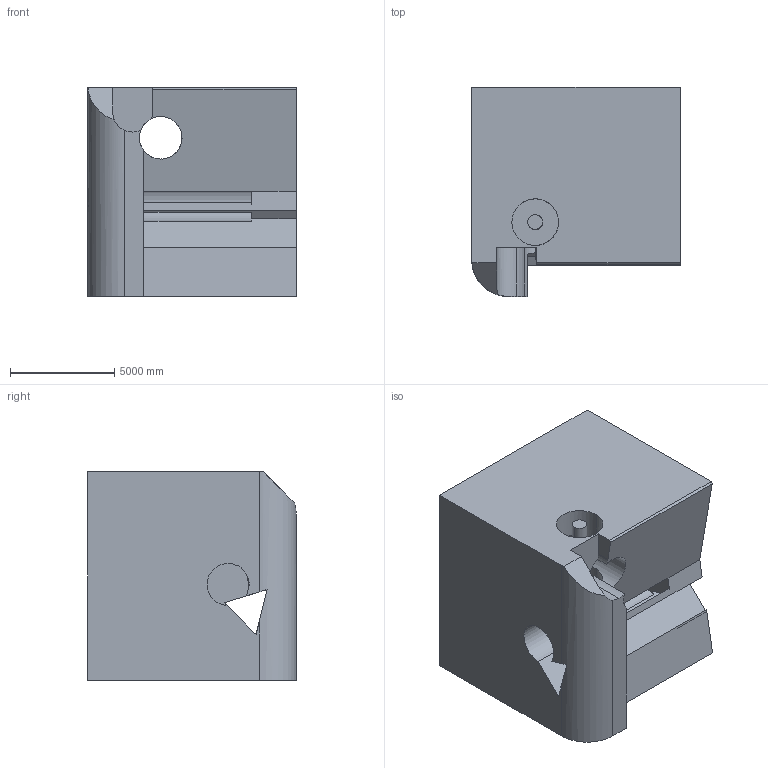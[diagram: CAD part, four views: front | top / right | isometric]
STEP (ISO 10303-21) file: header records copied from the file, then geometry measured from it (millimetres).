
FILE_DESCRIPTION (( 'STEP AP203' ), '1' );
FILE_NAME ('145.STEP', '2022-08-31T11:54:07', ( 'user' ), ( '' ), 'SwSTEP 2.0', 'SolidWorks 2021', '' );
FILE_SCHEMA (( 'CONFIG_CONTROL_DESIGN' ));
Length unit declared in the file: centimetre
Products named in the file (1): 145
Bounding box: 10000 x 10000 x 10000 mm (x, y, z)
Volume: 767838622828.8 mm3; surface area: 685634900.7 mm2
Topology: 2 solids, 2 shells, 38 faces, 116 edges, 77 vertices
Faces by surface type: plane 21, cylinder 17
Entity records: 2367 total; most frequent: CARTESIAN_POINT 1257, ORIENTED_EDGE 232, DIRECTION 200, EDGE_CURVE 116, VERTEX_POINT 77, VECTOR 72, LINE 72, AXIS2_PLACEMENT_3D 64
